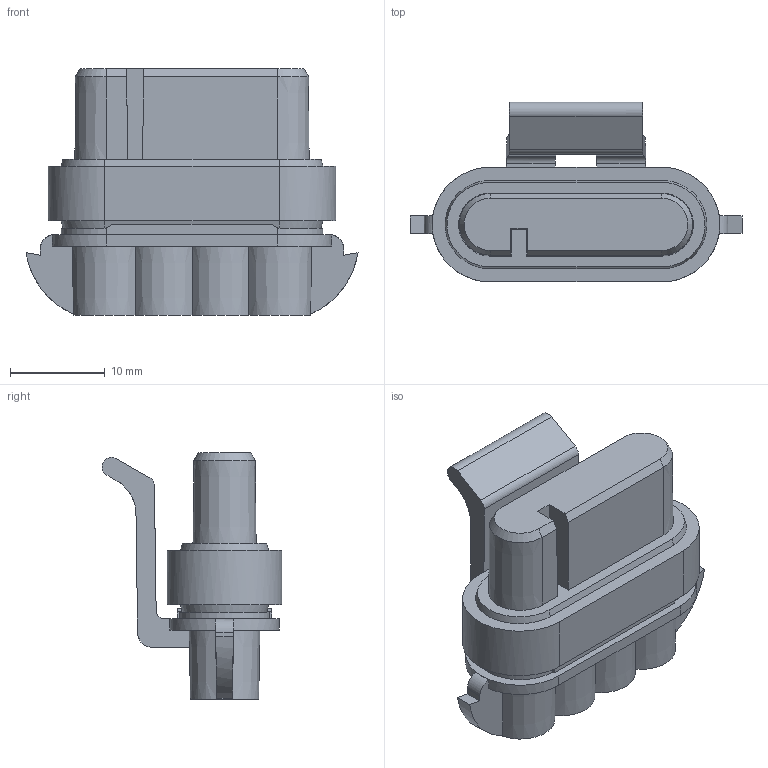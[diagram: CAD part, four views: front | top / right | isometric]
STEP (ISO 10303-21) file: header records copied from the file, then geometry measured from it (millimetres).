
FILE_DESCRIPTION(/* description */ (''),/* implementation_level */ '2;1');
FILE_NAME(/* name */ '15337220-ENV1101.stp',/* time_stamp */ '2019-08-02T12:57:00+05:00',/* author */ (''),/* organization */ (''),/* preprocessor_version */ 'ST-DEVELOPER v16',/* originating_system */ 'SIEMENS PLM Software NX 11.0',/* authorisation */ '');
FILE_SCHEMA (('AUTOMOTIVE_DESIGN { 1 0 10303 214 3 1 1 1 }'));
Length unit declared in the file: millimetre
Products named in the file (1): 15337220-ENV11_01-CONN
Bounding box: 35 x 18.94 x 26 mm (x, y, z)
Volume: 6054.6 mm3; surface area: 3296.9 mm2
Topology: 1 solids, 1 shells, 102 faces, 290 edges, 192 vertices
Faces by surface type: plane 69, cylinder 15, cone 12, bspline 6
Entity records: 3478 total; most frequent: CARTESIAN_POINT 819, ORIENTED_EDGE 580, DIRECTION 512, EDGE_CURVE 290, VERTEX_POINT 192, LINE 190, VECTOR 190, AXIS2_PLACEMENT_3D 161
